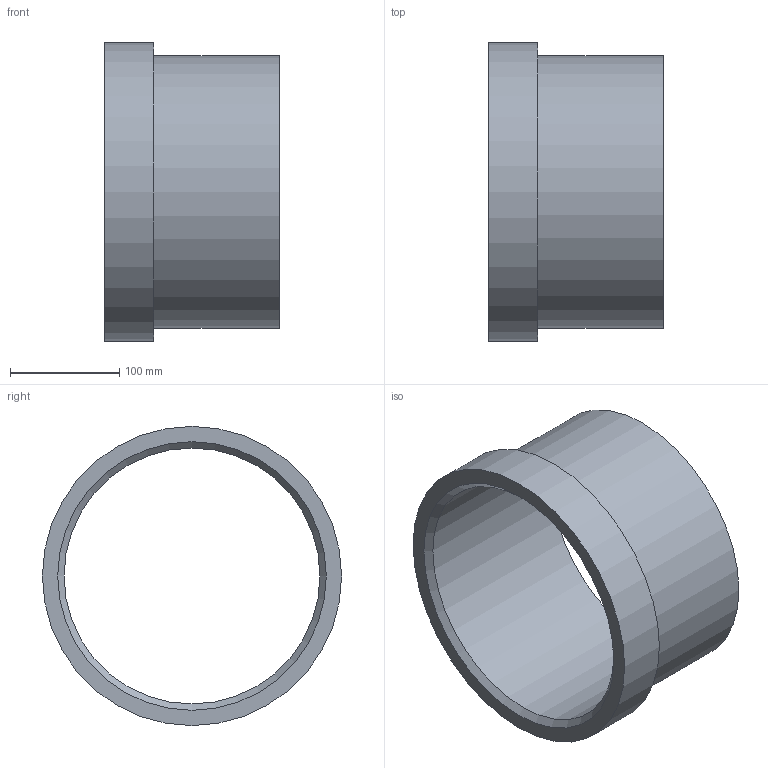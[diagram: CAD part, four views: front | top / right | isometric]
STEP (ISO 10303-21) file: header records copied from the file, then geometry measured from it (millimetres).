
FILE_DESCRIPTION(/* description */ (''),/* implementation_level */ '2;1');
FILE_NAME(/* name */ 'Z:\Geberit\Export\NewStep\371738.stp',/* time_stamp */ '2014-04-02T08:05:42+02:00',/* author */ ('ML'),/* organization */ (''),/* preprocessor_version */ 'ST-DEVELOPER v15.2',/* originating_system */ 'Autodesk Inventor 2014',/* authorisation */ '');
FILE_SCHEMA (('AUTOMOTIVE_DESIGN { 1 0 10303 214 3 1 1 }'));
Length unit declared in the file: millimetre
Products named in the file (1): 371738
Bounding box: 160 x 274 x 274 mm (x, y, z)
Volume: 1381477.5 mm3; surface area: 276045 mm2
Topology: 1 solids, 1 shells, 7 faces, 11 edges, 7 vertices
Faces by surface type: plane 3, cylinder 3, cone 1
Full cylindrical faces by diameter (mm): 234.4 x1, 250 x1, 274 x1
Entity records: 176 total; most frequent: DIRECTION 30, CARTESIAN_POINT 22, AXIS2_PLACEMENT_3D 15, EDGE_LOOP 14, ORIENTED_EDGE 14, FACE_BOUND 9, STYLED_ITEM 8, CIRCLE 7
